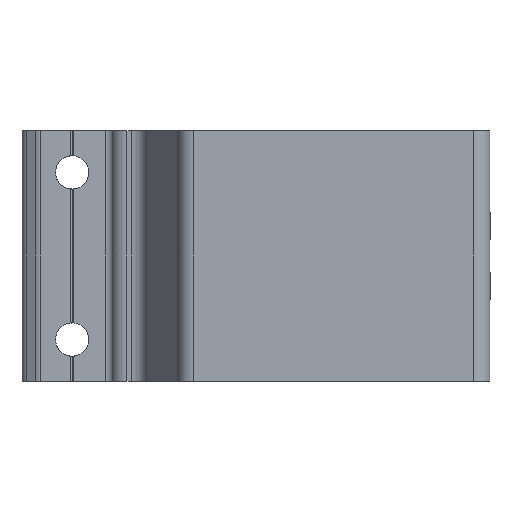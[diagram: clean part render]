
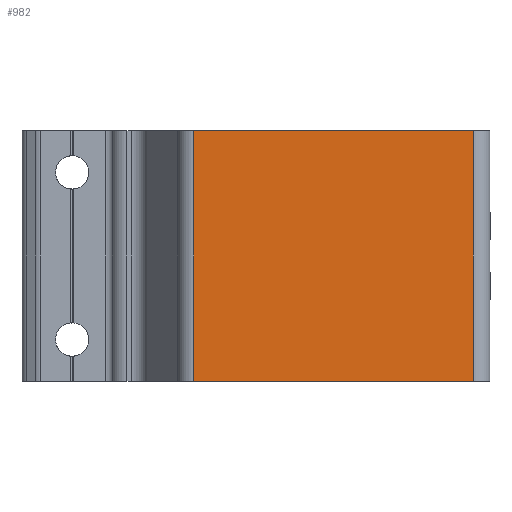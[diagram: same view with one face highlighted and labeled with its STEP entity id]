
A CAD part, left-side view. The second image highlights one B-rep face of the part: STEP entity #982.
In plain terms, the highlighted planar face has unit normal (-1, 0, 0).
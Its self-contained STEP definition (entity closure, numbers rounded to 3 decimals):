
#924=CARTESIAN_POINT('',(-187.074,-214.607,60.0));
#925=VERTEX_POINT('',#924);
#933=CARTESIAN_POINT('',(-187.074,-214.607,0.0));
#934=VERTEX_POINT('',#933);
#935=CARTESIAN_POINT('',(-187.074,-214.607,0.0));
#936=DIRECTION('',(0.0,0.0,1.0));
#937=VECTOR('',#936,60.0);
#938=LINE('',#935,#937);
#939=EDGE_CURVE('',#934,#925,#938,.T.);
#952=CARTESIAN_POINT('',(-187.074,-214.607,0.0));
#953=DIRECTION('',(-1.0,0.0,0.0));
#954=DIRECTION('',(0.0,0.0,1.0));
#955=AXIS2_PLACEMENT_3D('',#952,#953,#954);
#956=PLANE('',#955);
#957=CARTESIAN_POINT('',(-187.074,-147.767,60.0));
#958=VERTEX_POINT('',#957);
#959=CARTESIAN_POINT('',(-187.074,-214.607,60.0));
#960=DIRECTION('',(0.0,1.0,0.0));
#961=VECTOR('',#960,66.841);
#962=LINE('',#959,#961);
#963=EDGE_CURVE('',#925,#958,#962,.T.);
#964=ORIENTED_EDGE('',*,*,#963,.T.);
#965=CARTESIAN_POINT('',(-187.074,-147.767,0.0));
#966=VERTEX_POINT('',#965);
#967=CARTESIAN_POINT('',(-187.074,-147.767,0.0));
#968=DIRECTION('',(0.0,0.0,1.0));
#969=VECTOR('',#968,60.0);
#970=LINE('',#967,#969);
#971=EDGE_CURVE('',#966,#958,#970,.T.);
#972=ORIENTED_EDGE('',*,*,#971,.F.);
#973=CARTESIAN_POINT('',(-187.074,-214.607,0.0));
#974=DIRECTION('',(0.0,1.0,0.0));
#975=VECTOR('',#974,66.841);
#976=LINE('',#973,#975);
#977=EDGE_CURVE('',#934,#966,#976,.T.);
#978=ORIENTED_EDGE('',*,*,#977,.F.);
#979=ORIENTED_EDGE('',*,*,#939,.T.);
#980=EDGE_LOOP('',(#964,#972,#978,#979));
#981=FACE_OUTER_BOUND('',#980,.T.);
#982=ADVANCED_FACE('',(#981),#956,.T.);
